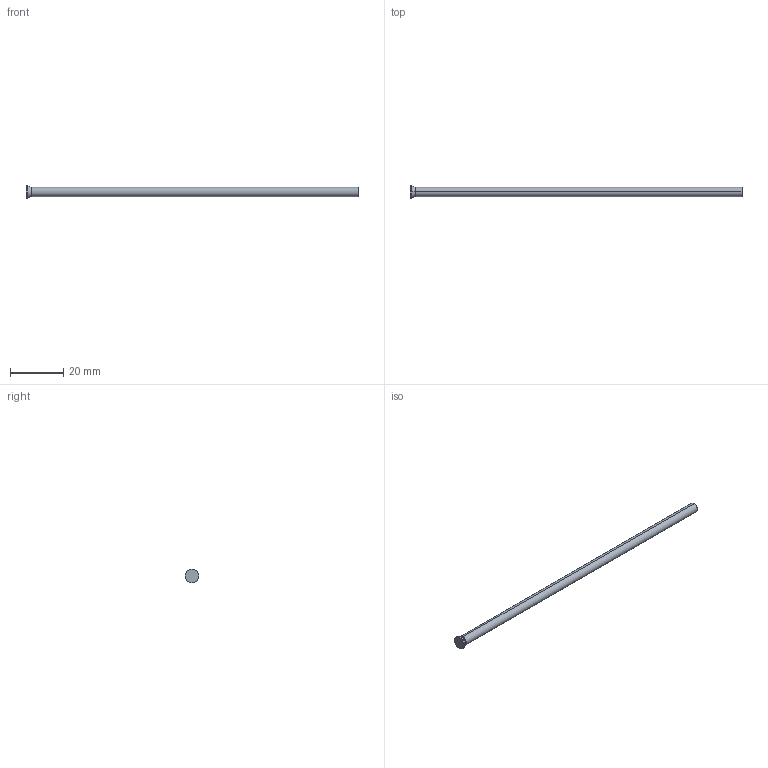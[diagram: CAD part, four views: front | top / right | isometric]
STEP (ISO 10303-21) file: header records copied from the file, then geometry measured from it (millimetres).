
FILE_DESCRIPTION (( 'STEP AP214' ), '1' );
FILE_NAME ('D-3,6x125.STEP', '2020-06-08T10:59:24', ( 'August' ), ( '' ), 'SwSTEP 2.0', 'SolidWorks 2018', '' );
FILE_SCHEMA (( 'AUTOMOTIVE_DESIGN' ));
Length unit declared in the file: millimetre
Products named in the file (1): D-3,6x125
Bounding box: 125 x 5 x 5 mm (x, y, z)
Volume: 1282.5 mm3; surface area: 1450.8 mm2
Topology: 1 solids, 1 shells, 10 faces, 18 edges, 10 vertices
Faces by surface type: cylinder 4, torus 2, cone 2, plane 2
Entity records: 280 total; most frequent: DIRECTION 52, CARTESIAN_POINT 39, ORIENTED_EDGE 36, AXIS2_PLACEMENT_3D 23, EDGE_CURVE 18, CIRCLE 12, VERTEX_POINT 10, EDGE_LOOP 10
